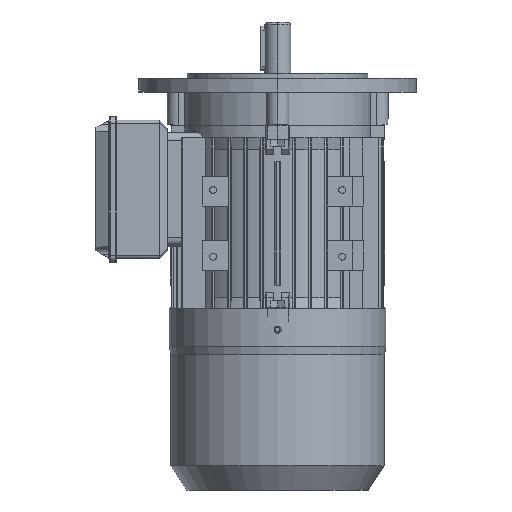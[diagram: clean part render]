
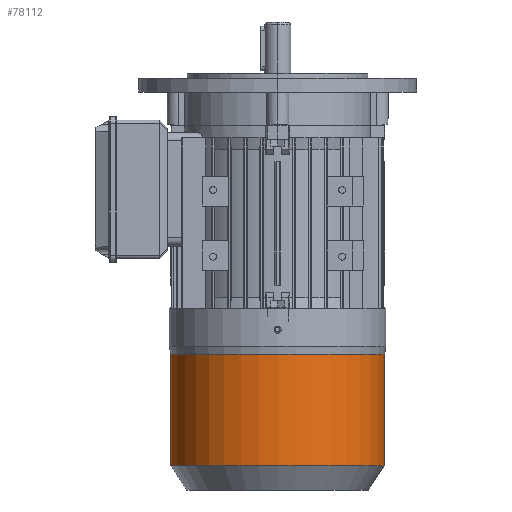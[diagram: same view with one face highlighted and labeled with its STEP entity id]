
A CAD part, left-side view. The second image highlights one B-rep face of the part: STEP entity #78112.
In plain terms, the highlighted cylindrical face has radius 77 mm (diameter 154 mm), a partial arc.
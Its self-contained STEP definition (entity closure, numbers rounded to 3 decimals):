
#11292 = EDGE_CURVE ( 'NONE', #25654, #25647, #65334, .T. ) ;
#11314 = EDGE_CURVE ( 'NONE', #25661, #25654, #65347, .T. ) ;
#11322 = EDGE_CURVE ( 'NONE', #25618, #25647, #65346, .T. ) ;
#11325 = EDGE_CURVE ( 'NONE', #25661, #25618, #65355, .T. ) ;
#23027 = EDGE_LOOP ( 'NONE', ( #32895, #32896, #32897, #32898 ) ) ;
#25618 = VERTEX_POINT ( 'NONE', #40198 ) ;
#25647 = VERTEX_POINT ( 'NONE', #40213 ) ;
#25654 = VERTEX_POINT ( 'NONE', #40217 ) ;
#25661 = VERTEX_POINT ( 'NONE', #40220 ) ;
#32895 = ORIENTED_EDGE ( 'NONE', *, *, #11314, .T. ) ;
#32896 = ORIENTED_EDGE ( 'NONE', *, *, #11292, .T. ) ;
#32897 = ORIENTED_EDGE ( 'NONE', *, *, #11322, .F. ) ;
#32898 = ORIENTED_EDGE ( 'NONE', *, *, #11325, .F. ) ;
#40198 = CARTESIAN_POINT ( 'NONE',  ( 33.381, 0., 77. ) ) ;
#40213 = CARTESIAN_POINT ( 'NONE',  ( 33.381, 0., -77. ) ) ;
#40217 = CARTESIAN_POINT ( 'NONE',  ( 113.596, 0., -77. ) ) ;
#40220 = CARTESIAN_POINT ( 'NONE',  ( 113.596, 0., 77. ) ) ;
#50383 = CYLINDRICAL_SURFACE ( 'NONE', #52134, 77. ) ;
#50384 = FACE_OUTER_BOUND ( 'NONE', #23027, .T. ) ;
#52134 = AXIS2_PLACEMENT_3D ( 'NONE', #55643, #55646, #55642 ) ;
#55642 = DIRECTION ( 'NONE',  ( 0., 0., 1. ) ) ;
#55643 = CARTESIAN_POINT ( 'NONE',  ( 0., 0., 0. ) ) ;
#55646 = DIRECTION ( 'NONE',  ( -1., 0., 0. ) ) ;
#62927 = AXIS2_PLACEMENT_3D ( 'NONE', #66860, #66862, #66864 ) ;
#62929 = AXIS2_PLACEMENT_3D ( 'NONE', #66884, #66885, #66887 ) ;
#65334 = LINE ( 'NONE', #66812, #65335 ) ;
#65335 = VECTOR ( 'NONE', #66814, 1000. ) ;
#65346 = CIRCLE ( 'NONE', #62929, 77. ) ;
#65347 = CIRCLE ( 'NONE', #62927, 77. ) ;
#65355 = LINE ( 'NONE', #66876, #65357 ) ;
#65357 = VECTOR ( 'NONE', #66867, 1000. ) ;
#66812 = CARTESIAN_POINT ( 'NONE',  ( 0., 0., -77. ) ) ;
#66814 = DIRECTION ( 'NONE',  ( -1., 0., 0. ) ) ;
#66860 = CARTESIAN_POINT ( 'NONE',  ( 113.596, 0., 0. ) ) ;
#66862 = DIRECTION ( 'NONE',  ( -1., 0., 0. ) ) ;
#66864 = DIRECTION ( 'NONE',  ( 0., 0., 1. ) ) ;
#66867 = DIRECTION ( 'NONE',  ( -1., 0., 0. ) ) ;
#66876 = CARTESIAN_POINT ( 'NONE',  ( 0., 0., 77. ) ) ;
#66884 = CARTESIAN_POINT ( 'NONE',  ( 33.381, 0., 0. ) ) ;
#66885 = DIRECTION ( 'NONE',  ( -1., 0., 0. ) ) ;
#66887 = DIRECTION ( 'NONE',  ( 0., 0., 1. ) ) ;
#78112 = ADVANCED_FACE ( 'NONE', ( #50384 ), #50383, .T. ) ;
